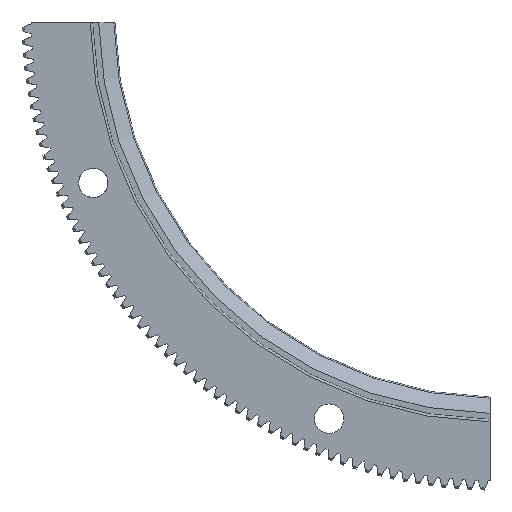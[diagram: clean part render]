
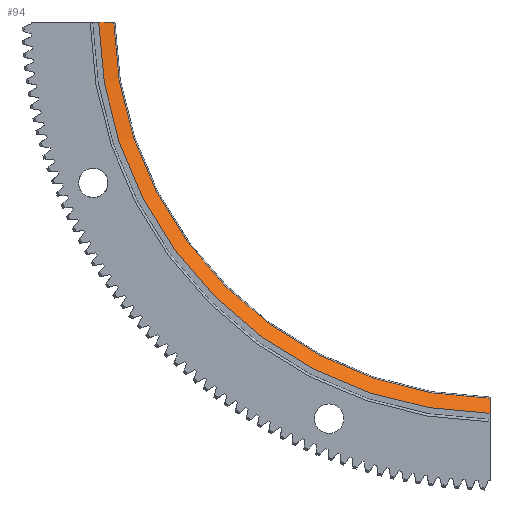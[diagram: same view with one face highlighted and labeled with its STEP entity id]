
A CAD part, front view. The second image highlights one B-rep face of the part: STEP entity #94.
In plain terms, the highlighted conical face has half-angle 55 degrees and reference radius 64.921 mm.
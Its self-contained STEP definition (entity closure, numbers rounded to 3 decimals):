
#94=ADVANCED_FACE('',(#452),#453,.F.);
#452=FACE_OUTER_BOUND('',#1174,.T.);
#453=CONICAL_SURFACE('',#1175,64.921,0.96);
#1174=EDGE_LOOP('',(#1908,#1909,#1910,#1911));
#1175=AXIS2_PLACEMENT_3D('',#1912,#1913,#1914);
#1908=ORIENTED_EDGE('',*,*,#5077,.T.);
#1909=ORIENTED_EDGE('',*,*,#5067,.T.);
#1910=ORIENTED_EDGE('',*,*,#5078,.F.);
#1911=ORIENTED_EDGE('',*,*,#5079,.T.);
#1912=CARTESIAN_POINT('',(0.0,7.576,0.0));
#1913=DIRECTION('',(0.0,-1.0,-0.0));
#1914=DIRECTION('',(0.0,0.0,-1.0));
#5067=EDGE_CURVE('',#6121,#6118,#6122,.T.);
#5077=EDGE_CURVE('',#6140,#6121,#6141,.T.);
#5078=EDGE_CURVE('',#6142,#6118,#6143,.T.);
#5079=EDGE_CURVE('',#6142,#6140,#6144,.T.);
#6118=VERTEX_POINT('',#7874);
#6121=VERTEX_POINT('',#7884);
#6122=B_SPLINE_CURVE_WITH_KNOTS('',3,(#7885,#7886,#7887,#7888),.UNSPECIFIED.,.F.,.F.,(4,4),(0.081,0.084),.UNSPECIFIED.);
#6140=VERTEX_POINT('',#7919);
#6141=CIRCLE('',#7920,67.457);
#6142=VERTEX_POINT('',#7921);
#6143=CIRCLE('',#7922,64.921);
#6144=B_SPLINE_CURVE_WITH_KNOTS('',3,(#7923,#7924,#7925,#7926),.UNSPECIFIED.,.F.,.F.,(4,4),(0.259,0.262),.UNSPECIFIED.);
#7874=CARTESIAN_POINT('',(-1.0,7.576,-64.913));
#7884=CARTESIAN_POINT('',(-1.0,5.8,-67.45));
#7885=CARTESIAN_POINT('',(-1.0,5.8,-67.45));
#7886=CARTESIAN_POINT('',(-1.0,6.392,-66.604));
#7887=CARTESIAN_POINT('',(-1.0,6.984,-65.759));
#7888=CARTESIAN_POINT('',(-1.0,7.576,-64.913));
#7919=CARTESIAN_POINT('',(-67.45,5.8,-1.0));
#7920=AXIS2_PLACEMENT_3D('',#10754,#10755,#10756);
#7921=CARTESIAN_POINT('',(-64.913,7.576,-1.0));
#7922=AXIS2_PLACEMENT_3D('',#10757,#10758,#10759);
#7923=CARTESIAN_POINT('',(-64.913,7.576,-1.0));
#7924=CARTESIAN_POINT('',(-65.759,6.984,-1.0));
#7925=CARTESIAN_POINT('',(-66.604,6.392,-1.0));
#7926=CARTESIAN_POINT('',(-67.45,5.8,-1.0));
#10754=CARTESIAN_POINT('',(0.0,5.8,0.0));
#10755=DIRECTION('',(0.0,-1.0,0.0));
#10756=DIRECTION('',(0.0,0.0,-1.0));
#10757=CARTESIAN_POINT('',(0.0,7.576,0.0));
#10758=DIRECTION('',(0.0,-1.0,0.0));
#10759=DIRECTION('',(0.0,0.0,-1.0));
